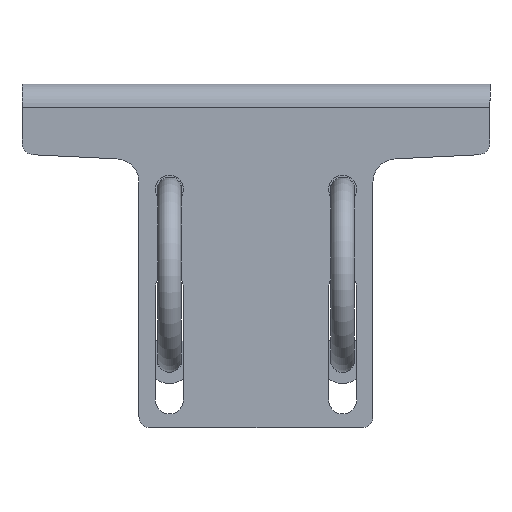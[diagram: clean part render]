
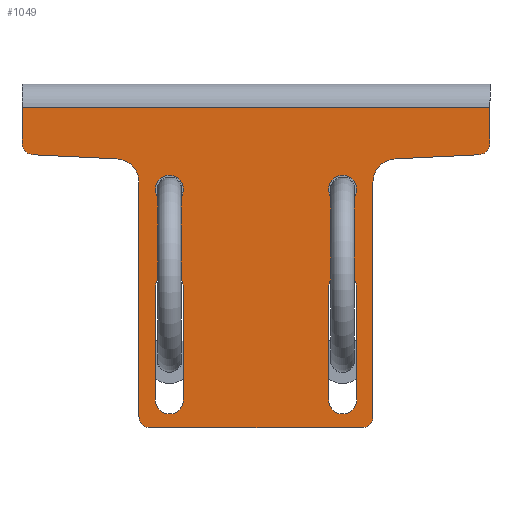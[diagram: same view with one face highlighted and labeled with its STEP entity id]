
A CAD part, left-side view. The second image highlights one B-rep face of the part: STEP entity #1049.
In plain terms, the highlighted planar face has unit normal (-1, 0, 0) as drawn and (1, 0, 0) by its records, which use the part's own axes.
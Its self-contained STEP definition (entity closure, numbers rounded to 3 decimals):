
#92=FACE_BOUND('',#241,.T.);
#93=FACE_BOUND('',#242,.T.);
#94=FACE_BOUND('',#243,.T.);
#95=FACE_BOUND('',#244,.T.);
#96=FACE_BOUND('',#245,.T.);
#136=PLANE('',#1142);
#241=EDGE_LOOP('',(#808));
#242=EDGE_LOOP('',(#809,#810,#811,#812));
#243=EDGE_LOOP('',(#813,#814,#815,#816,#817,#818,#819,#820,#821,#822,#823,
#824,#825,#826));
#244=EDGE_LOOP('',(#827));
#245=EDGE_LOOP('',(#828,#829,#830,#831));
#337=LINE('',#1639,#403);
#341=LINE('',#1650,#407);
#345=LINE('',#1663,#411);
#349=LINE('',#1674,#415);
#351=LINE('',#1683,#417);
#354=LINE('',#1694,#420);
#355=LINE('',#1697,#421);
#356=LINE('',#1699,#422);
#357=LINE('',#1701,#423);
#358=LINE('',#1703,#424);
#359=LINE('',#1707,#425);
#360=LINE('',#1711,#426);
#403=VECTOR('',#1298,100.012);
#407=VECTOR('',#1310,35.784);
#411=VECTOR('',#1322,48.);
#415=VECTOR('',#1334,48.);
#417=VECTOR('',#1344,90.);
#420=VECTOR('',#1353,48.);
#421=VECTOR('',#1356,48.);
#422=VECTOR('',#1357,15.241);
#423=VECTOR('',#1358,200.);
#424=VECTOR('',#1359,15.241);
#425=VECTOR('',#1362,35.784);
#426=VECTOR('',#1365,100.012);
#462=CIRCLE('',#1120,5.);
#464=CIRCLE('',#1123,5.);
#466=CIRCLE('',#1127,10.);
#468=CIRCLE('',#1131,6.);
#470=CIRCLE('',#1135,6.);
#472=CIRCLE('',#1139,6.);
#474=CIRCLE('',#1143,6.);
#475=CIRCLE('',#1144,6.);
#476=CIRCLE('',#1145,6.);
#477=CIRCLE('',#1146,5.);
#478=CIRCLE('',#1147,10.);
#479=CIRCLE('',#1148,5.);
#525=VERTEX_POINT('',#1620);
#526=VERTEX_POINT('',#1621);
#529=VERTEX_POINT('',#1629);
#530=VERTEX_POINT('',#1630);
#533=VERTEX_POINT('',#1638);
#535=VERTEX_POINT('',#1644);
#537=VERTEX_POINT('',#1653);
#538=VERTEX_POINT('',#1654);
#541=VERTEX_POINT('',#1662);
#543=VERTEX_POINT('',#1668);
#545=VERTEX_POINT('',#1677);
#547=VERTEX_POINT('',#1682);
#549=VERTEX_POINT('',#1688);
#550=VERTEX_POINT('',#1690);
#551=VERTEX_POINT('',#1691);
#552=VERTEX_POINT('',#1693);
#553=VERTEX_POINT('',#1695);
#554=VERTEX_POINT('',#1698);
#555=VERTEX_POINT('',#1700);
#556=VERTEX_POINT('',#1702);
#557=VERTEX_POINT('',#1704);
#558=VERTEX_POINT('',#1706);
#559=VERTEX_POINT('',#1708);
#560=VERTEX_POINT('',#1710);
#625=EDGE_CURVE('',#525,#526,#462,.T.);
#629=EDGE_CURVE('',#529,#530,#464,.T.);
#633=EDGE_CURVE('',#530,#533,#337,.T.);
#636=EDGE_CURVE('',#533,#535,#466,.T.);
#639=EDGE_CURVE('',#535,#525,#341,.T.);
#641=EDGE_CURVE('',#537,#538,#468,.T.);
#645=EDGE_CURVE('',#541,#537,#345,.T.);
#648=EDGE_CURVE('',#543,#541,#470,.T.);
#651=EDGE_CURVE('',#538,#543,#349,.T.);
#653=EDGE_CURVE('',#545,#545,#472,.T.);
#655=EDGE_CURVE('',#529,#547,#351,.T.);
#658=EDGE_CURVE('',#549,#549,#474,.T.);
#659=EDGE_CURVE('',#550,#551,#475,.T.);
#660=EDGE_CURVE('',#551,#552,#354,.T.);
#661=EDGE_CURVE('',#552,#553,#476,.T.);
#662=EDGE_CURVE('',#553,#550,#355,.T.);
#663=EDGE_CURVE('',#554,#526,#356,.T.);
#664=EDGE_CURVE('',#555,#554,#357,.T.);
#665=EDGE_CURVE('',#556,#555,#358,.T.);
#666=EDGE_CURVE('',#556,#557,#477,.T.);
#667=EDGE_CURVE('',#557,#558,#359,.T.);
#668=EDGE_CURVE('',#558,#559,#478,.T.);
#669=EDGE_CURVE('',#559,#560,#360,.T.);
#670=EDGE_CURVE('',#560,#547,#479,.T.);
#808=ORIENTED_EDGE('',*,*,#658,.T.);
#809=ORIENTED_EDGE('',*,*,#659,.T.);
#810=ORIENTED_EDGE('',*,*,#660,.T.);
#811=ORIENTED_EDGE('',*,*,#661,.T.);
#812=ORIENTED_EDGE('',*,*,#662,.T.);
#813=ORIENTED_EDGE('',*,*,#629,.T.);
#814=ORIENTED_EDGE('',*,*,#633,.T.);
#815=ORIENTED_EDGE('',*,*,#636,.T.);
#816=ORIENTED_EDGE('',*,*,#639,.T.);
#817=ORIENTED_EDGE('',*,*,#625,.T.);
#818=ORIENTED_EDGE('',*,*,#663,.F.);
#819=ORIENTED_EDGE('',*,*,#664,.F.);
#820=ORIENTED_EDGE('',*,*,#665,.F.);
#821=ORIENTED_EDGE('',*,*,#666,.T.);
#822=ORIENTED_EDGE('',*,*,#667,.T.);
#823=ORIENTED_EDGE('',*,*,#668,.T.);
#824=ORIENTED_EDGE('',*,*,#669,.T.);
#825=ORIENTED_EDGE('',*,*,#670,.T.);
#826=ORIENTED_EDGE('',*,*,#655,.F.);
#827=ORIENTED_EDGE('',*,*,#653,.T.);
#828=ORIENTED_EDGE('',*,*,#641,.T.);
#829=ORIENTED_EDGE('',*,*,#651,.T.);
#830=ORIENTED_EDGE('',*,*,#648,.T.);
#831=ORIENTED_EDGE('',*,*,#645,.T.);
#1049=ADVANCED_FACE('',(#92,#93,#94,#95,#96),#136,.T.);
#1120=AXIS2_PLACEMENT_3D('',#1622,#1282,#1283);
#1123=AXIS2_PLACEMENT_3D('',#1631,#1290,#1291);
#1127=AXIS2_PLACEMENT_3D('',#1645,#1303,#1304);
#1131=AXIS2_PLACEMENT_3D('',#1655,#1314,#1315);
#1135=AXIS2_PLACEMENT_3D('',#1669,#1327,#1328);
#1139=AXIS2_PLACEMENT_3D('',#1678,#1338,#1339);
#1142=AXIS2_PLACEMENT_3D('',#1687,#1347,#1348);
#1143=AXIS2_PLACEMENT_3D('',#1689,#1349,#1350);
#1144=AXIS2_PLACEMENT_3D('',#1692,#1351,#1352);
#1145=AXIS2_PLACEMENT_3D('',#1696,#1354,#1355);
#1146=AXIS2_PLACEMENT_3D('',#1705,#1360,#1361);
#1147=AXIS2_PLACEMENT_3D('',#1709,#1363,#1364);
#1148=AXIS2_PLACEMENT_3D('',#1712,#1366,#1367);
#1282=DIRECTION('center_axis',(1.,0.,0.));
#1283=DIRECTION('ref_axis',(0.,0.999,0.049));
#1290=DIRECTION('center_axis',(1.,0.,0.));
#1291=DIRECTION('ref_axis',(0.,1.,0.));
#1298=DIRECTION('',(0.,-1.,0.));
#1303=DIRECTION('center_axis',(-1.,0.,0.));
#1304=DIRECTION('ref_axis',(0.,0.999,0.049));
#1310=DIRECTION('',(0.,-0.049,0.999));
#1314=DIRECTION('center_axis',(-1.,0.,0.));
#1315=DIRECTION('ref_axis',(0.,0.,1.));
#1322=DIRECTION('',(0.,-1.,0.));
#1327=DIRECTION('center_axis',(-1.,0.,0.));
#1328=DIRECTION('ref_axis',(0.,0.,-1.));
#1334=DIRECTION('',(0.,1.,0.));
#1338=DIRECTION('center_axis',(-1.,0.,0.));
#1339=DIRECTION('ref_axis',(0.,0.,1.));
#1344=DIRECTION('',(0.,0.,-1.));
#1347=DIRECTION('center_axis',(1.,0.,0.));
#1348=DIRECTION('ref_axis',(0.,0.,-1.));
#1349=DIRECTION('center_axis',(-1.,0.,0.));
#1350=DIRECTION('ref_axis',(0.,0.,-1.));
#1351=DIRECTION('center_axis',(-1.,0.,0.));
#1352=DIRECTION('ref_axis',(0.,0.,1.));
#1353=DIRECTION('',(0.,-1.,0.));
#1354=DIRECTION('center_axis',(-1.,0.,0.));
#1355=DIRECTION('ref_axis',(0.,0.,-1.));
#1356=DIRECTION('',(0.,1.,0.));
#1357=DIRECTION('',(0.,1.,0.));
#1358=DIRECTION('',(0.,0.,1.));
#1359=DIRECTION('',(0.,-1.,0.));
#1360=DIRECTION('center_axis',(1.,0.,0.));
#1361=DIRECTION('ref_axis',(0.,0.999,-0.049));
#1362=DIRECTION('',(0.,0.049,0.999));
#1363=DIRECTION('center_axis',(-1.,0.,0.));
#1364=DIRECTION('ref_axis',(0.,0.999,-0.049));
#1365=DIRECTION('',(0.,1.,0.));
#1366=DIRECTION('center_axis',(1.,0.,0.));
#1367=DIRECTION('ref_axis',(0.,1.,0.));
#1620=CARTESIAN_POINT('',(0.,30.235,195.247));
#1621=CARTESIAN_POINT('',(0.,25.241,200.));
#1622=CARTESIAN_POINT('Origin',(0.,25.241,
195.));
#1629=CARTESIAN_POINT('',(0.,147.,145.));
#1630=CARTESIAN_POINT('',(0.,142.,150.));
#1631=CARTESIAN_POINT('Origin',(0.,142.,145.));
#1638=CARTESIAN_POINT('',(0.,41.988,150.));
#1639=CARTESIAN_POINT('',(0.,39.916,150.));
#1644=CARTESIAN_POINT('',(0.,32.,159.507));
#1645=CARTESIAN_POINT('Origin',(0.,41.988,
160.));
#1650=CARTESIAN_POINT('',(0.,32.59,147.552));
#1653=CARTESIAN_POINT('',(0.,87.,131.));
#1654=CARTESIAN_POINT('',(0.,87.,143.));
#1655=CARTESIAN_POINT('Origin',(0.,87.,137.));
#1662=CARTESIAN_POINT('',(0.,135.,131.));
#1663=CARTESIAN_POINT('',(0.,86.423,131.));
#1668=CARTESIAN_POINT('',(0.,135.,143.));
#1669=CARTESIAN_POINT('Origin',(0.,135.,137.));
#1674=CARTESIAN_POINT('',(0.,62.423,143.));
#1677=CARTESIAN_POINT('',(0.,45.,131.));
#1678=CARTESIAN_POINT('Origin',(0.,45.,137.));
#1682=CARTESIAN_POINT('',(0.,147.,55.));
#1683=CARTESIAN_POINT('',(0.,147.,0.));
#1687=CARTESIAN_POINT('Origin',(0.,37.845,
100.));
#1688=CARTESIAN_POINT('',(0.,45.,69.));
#1689=CARTESIAN_POINT('Origin',(0.,45.,63.));
#1690=CARTESIAN_POINT('',(0.,135.,69.));
#1691=CARTESIAN_POINT('',(0.,135.,57.));
#1692=CARTESIAN_POINT('Origin',(0.,135.,63.));
#1693=CARTESIAN_POINT('',(0.,87.,57.));
#1694=CARTESIAN_POINT('',(0.,62.423,57.));
#1695=CARTESIAN_POINT('',(0.,87.,69.));
#1696=CARTESIAN_POINT('Origin',(0.,87.,63.));
#1697=CARTESIAN_POINT('',(0.,86.423,69.));
#1698=CARTESIAN_POINT('',(0.,10.,200.));
#1699=CARTESIAN_POINT('',(0.,147.,200.));
#1700=CARTESIAN_POINT('',(0.,10.,0.));
#1701=CARTESIAN_POINT('',(0.,10.,100.));
#1702=CARTESIAN_POINT('',(0.,25.241,0.));
#1703=CARTESIAN_POINT('',(0.,-1.31,0.));
#1704=CARTESIAN_POINT('',(0.,30.235,4.753));
#1705=CARTESIAN_POINT('Origin',(0.,25.241,
5.));
#1706=CARTESIAN_POINT('',(0.,32.,40.493));
#1707=CARTESIAN_POINT('',(0.,32.59,52.448));
#1708=CARTESIAN_POINT('',(0.,41.988,50.));
#1709=CARTESIAN_POINT('Origin',(0.,41.988,
40.));
#1710=CARTESIAN_POINT('',(0.,142.,50.));
#1711=CARTESIAN_POINT('',(0.,39.916,50.));
#1712=CARTESIAN_POINT('Origin',(0.,142.,55.));
